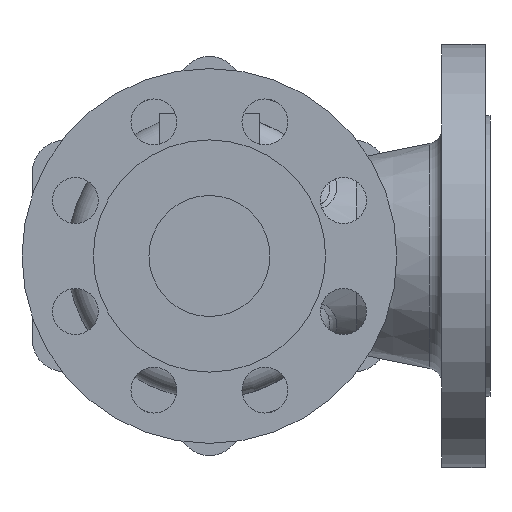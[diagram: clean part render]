
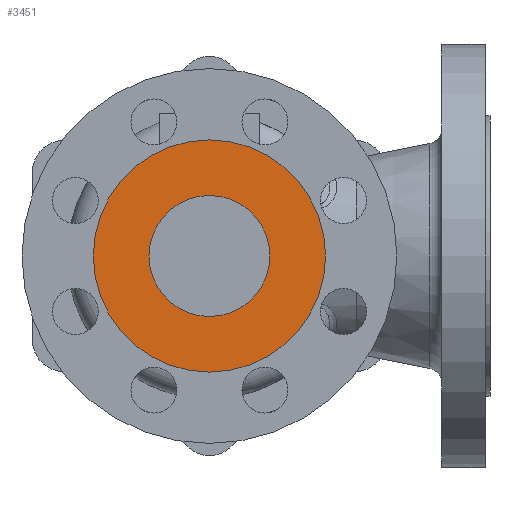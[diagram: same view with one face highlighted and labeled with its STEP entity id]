
A CAD part, front view. The second image highlights one B-rep face of the part: STEP entity #3451.
In plain terms, the highlighted planar face has unit normal (0, -1, 0).
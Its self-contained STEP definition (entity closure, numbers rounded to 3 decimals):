
#18 = DIRECTION ( 'NONE',  ( 0., -1., 0. ) ) ;
#22 = DIRECTION ( 'NONE',  ( 0., 0., 1. ) ) ;
#24 = CARTESIAN_POINT ( 'NONE',  ( 0., -107., 0. ) ) ;
#59 = DIRECTION ( 'NONE',  ( 0., 0., -1. ) ) ;
#478 = CIRCLE ( 'NONE', #1106, 25. ) ;
#527 = FACE_BOUND ( 'NONE', #4069, .T. ) ;
#588 = PLANE ( 'NONE',  #888 ) ;
#625 = CARTESIAN_POINT ( 'NONE',  ( 0., -107., -48. ) ) ;
#888 = AXIS2_PLACEMENT_3D ( 'NONE', #3163, #18, #4647 ) ;
#912 = CARTESIAN_POINT ( 'NONE',  ( 0., -107., 25. ) ) ;
#918 = AXIS2_PLACEMENT_3D ( 'NONE', #3350, #6015, #1858 ) ;
#964 = EDGE_LOOP ( 'NONE', ( #5681, #5650 ) ) ;
#1106 = AXIS2_PLACEMENT_3D ( 'NONE', #24, #4678, #59 ) ;
#1129 = CARTESIAN_POINT ( 'NONE',  ( 0., -107., 0. ) ) ;
#1858 = DIRECTION ( 'NONE',  ( 0., 0., -1. ) ) ;
#1871 = ORIENTED_EDGE ( 'NONE', *, *, #4084, .F. ) ;
#2053 = DIRECTION ( 'NONE',  ( 0., 1., 0. ) ) ;
#2197 = CARTESIAN_POINT ( 'NONE',  ( 0., -107., -25. ) ) ;
#2310 = CIRCLE ( 'NONE', #6092, 48. ) ;
#3104 = EDGE_CURVE ( 'NONE', #5049, #6033, #2310, .T. ) ;
#3163 = CARTESIAN_POINT ( 'NONE',  ( 0., -107., 0. ) ) ;
#3218 = CARTESIAN_POINT ( 'NONE',  ( 0., -107., 48. ) ) ;
#3350 = CARTESIAN_POINT ( 'NONE',  ( 0., -107., 0. ) ) ;
#3358 = ORIENTED_EDGE ( 'NONE', *, *, #6617, .F. ) ;
#3381 = CIRCLE ( 'NONE', #918, 25. ) ;
#3451 = ADVANCED_FACE ( 'NONE', ( #527, #5749 ), #588, .T. ) ;
#4040 = AXIS2_PLACEMENT_3D ( 'NONE', #4622, #2053, #5720 ) ;
#4069 = EDGE_LOOP ( 'NONE', ( #3358, #1871 ) ) ;
#4084 = EDGE_CURVE ( 'NONE', #6552, #5951, #3381, .T. ) ;
#4622 = CARTESIAN_POINT ( 'NONE',  ( 0., -107., 0. ) ) ;
#4647 = DIRECTION ( 'NONE',  ( 0., 0., -1. ) ) ;
#4678 = DIRECTION ( 'NONE',  ( 0., -1., 0. ) ) ;
#5049 = VERTEX_POINT ( 'NONE', #625 ) ;
#5181 = DIRECTION ( 'NONE',  ( 0., 1., 0. ) ) ;
#5553 = EDGE_CURVE ( 'NONE', #6033, #5049, #5973, .T. ) ;
#5650 = ORIENTED_EDGE ( 'NONE', *, *, #3104, .F. ) ;
#5681 = ORIENTED_EDGE ( 'NONE', *, *, #5553, .F. ) ;
#5720 = DIRECTION ( 'NONE',  ( 0., 0., 1. ) ) ;
#5749 = FACE_OUTER_BOUND ( 'NONE', #964, .T. ) ;
#5951 = VERTEX_POINT ( 'NONE', #2197 ) ;
#5973 = CIRCLE ( 'NONE', #4040, 48. ) ;
#6015 = DIRECTION ( 'NONE',  ( 0., -1., 0. ) ) ;
#6033 = VERTEX_POINT ( 'NONE', #3218 ) ;
#6092 = AXIS2_PLACEMENT_3D ( 'NONE', #1129, #5181, #22 ) ;
#6552 = VERTEX_POINT ( 'NONE', #912 ) ;
#6617 = EDGE_CURVE ( 'NONE', #5951, #6552, #478, .T. ) ;
